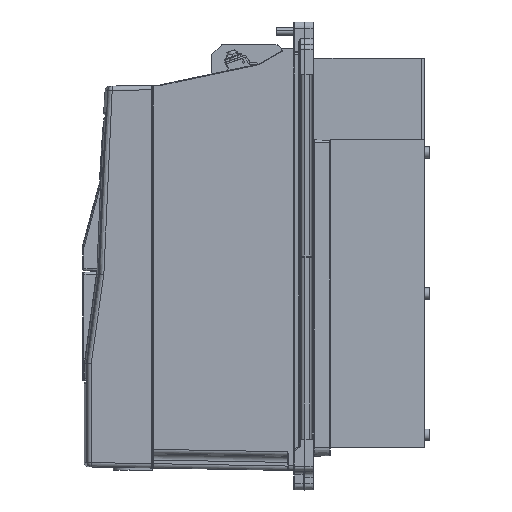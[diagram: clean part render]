
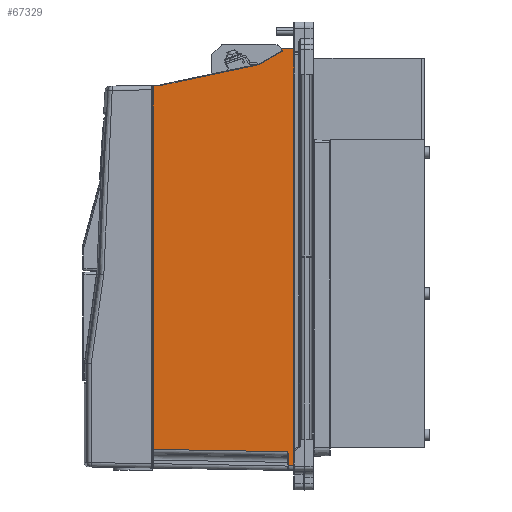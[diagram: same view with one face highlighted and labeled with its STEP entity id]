
A CAD part, left-side view. The second image highlights one B-rep face of the part: STEP entity #67329.
In plain terms, the highlighted planar face has unit normal (-1, 0.018, 0).
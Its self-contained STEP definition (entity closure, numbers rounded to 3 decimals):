
#221 = ORIENTED_EDGE ( 'NONE', *, *, #22526, .T. ) ;
#1192 = VECTOR ( 'NONE', #18104, 1000. ) ;
#1935 = CARTESIAN_POINT ( 'NONE',  ( -108.693, 64.434, -163.895 ) ) ;
#3152 = CARTESIAN_POINT ( 'NONE',  ( -110.747, -49.991, -165.929 ) ) ;
#3959 = VERTEX_POINT ( 'NONE', #43248 ) ;
#5430 = B_SPLINE_CURVE_WITH_KNOTS ( 'NONE', 3,
 ( #5744, #95565, #45939, #7277, #102388, #22946, #63699, #23954 ),
 .UNSPECIFIED., .F., .F.,
 ( 4, 2, 2, 4 ),
 ( 0., 0.001, 0.002, 0.003 ),
 .UNSPECIFIED. ) ;
#5744 = CARTESIAN_POINT ( 'NONE',  ( -110.73, -49.009, -154.992 ) ) ;
#6008 = VERTEX_POINT ( 'NONE', #19914 ) ;
#7223 = CARTESIAN_POINT ( 'NONE',  ( -108.887, 53.646, 136.585 ) ) ;
#7277 = CARTESIAN_POINT ( 'NONE',  ( -110.743, -49.76, -156.465 ) ) ;
#7624 = VERTEX_POINT ( 'NONE', #58889 ) ;
#8444 = ORIENTED_EDGE ( 'NONE', *, *, #49581, .T. ) ;
#8998 = DIRECTION ( 'NONE',  ( 0.018, 1., 0. ) ) ;
#10022 = FACE_OUTER_BOUND ( 'NONE', #53502, .T. ) ;
#10126 = VECTOR ( 'NONE', #39858, 1000. ) ;
#10980 = VERTEX_POINT ( 'NONE', #64912 ) ;
#11034 = CARTESIAN_POINT ( 'NONE',  ( -108.888, 53.582, 136.586 ) ) ;
#11076 = DIRECTION ( 'NONE',  ( 0.016, 0.866, -0.5 ) ) ;
#12215 = LINE ( 'NONE', #60808, #60762 ) ;
#14320 = VERTEX_POINT ( 'NONE', #19786 ) ;
#14661 = EDGE_CURVE ( 'NONE', #3959, #7624, #65163, .T. ) ;
#14730 = LINE ( 'NONE', #15253, #69872 ) ;
#15036 = ORIENTED_EDGE ( 'NONE', *, *, #101623, .T. ) ;
#15253 = CARTESIAN_POINT ( 'NONE',  ( -108.926, 51.493, 137.024 ) ) ;
#15471 = CARTESIAN_POINT ( 'NONE',  ( -110.33, -26.746, 153.671 ) ) ;
#18104 = DIRECTION ( 'NONE',  ( -0.018, -1., -0.018 ) ) ;
#18670 = EDGE_CURVE ( 'NONE', #34791, #6008, #87607, .T. ) ;
#19786 = CARTESIAN_POINT ( 'NONE',  ( -110.747, -49.991, -157.617 ) ) ;
#19914 = CARTESIAN_POINT ( 'NONE',  ( -108.809, 58.009, 136.509 ) ) ;
#21363 = LINE ( 'NONE', #89984, #23600 ) ;
#21973 = ORIENTED_EDGE ( 'NONE', *, *, #43638, .F. ) ;
#22234 = EDGE_CURVE ( 'NONE', #6008, #71752, #78559, .T. ) ;
#22458 = CARTESIAN_POINT ( 'NONE',  ( -110.649, -44.491, 163.917 ) ) ;
#22526 = EDGE_CURVE ( 'NONE', #41535, #72756, #58637, .T. ) ;
#22946 = CARTESIAN_POINT ( 'NONE',  ( -110.747, -49.956, -157.147 ) ) ;
#23600 = VECTOR ( 'NONE', #52693, 1000. ) ;
#23954 = CARTESIAN_POINT ( 'NONE',  ( -110.747, -49.991, -157.617 ) ) ;
#25433 = DIRECTION ( 'NONE',  ( 0., 0., -1. ) ) ;
#25679 = DIRECTION ( 'NONE',  ( 1., -0.018, 0. ) ) ;
#26701 = CARTESIAN_POINT ( 'NONE',  ( -108.887, 53.646, 136.585 ) ) ;
#28545 = EDGE_CURVE ( 'NONE', #3959, #10980, #12215, .T. ) ;
#28990 = CARTESIAN_POINT ( 'NONE',  ( -110.658, -44.991, 170. ) ) ;
#29777 = CARTESIAN_POINT ( 'NONE',  ( -110.654, -44.808, 164.1 ) ) ;
#29878 = DIRECTION ( 'NONE',  ( 0.018, 0.978, -0.208 ) ) ;
#30491 = VERTEX_POINT ( 'NONE', #3152 ) ;
#31174 = DIRECTION ( 'NONE',  ( 0.018, 1., -0.017 ) ) ;
#33170 = CARTESIAN_POINT ( 'NONE',  ( -110.73, -49.009, -154.992 ) ) ;
#34791 = VERTEX_POINT ( 'NONE', #7223 ) ;
#35634 = EDGE_CURVE ( 'NONE', #71752, #71630, #21363, .T. ) ;
#36110 =( BOUNDED_CURVE ( )  B_SPLINE_CURVE ( 3, ( #64557, #79718, #15471, #56211 ),
 .UNSPECIFIED., .F., .F. ) 
 B_SPLINE_CURVE_WITH_KNOTS ( ( 4, 4 ),
 ( 4.398, 4.712 ),
 .UNSPECIFIED. ) 
 CURVE ( )  GEOMETRIC_REPRESENTATION_ITEM ( )  RATIONAL_B_SPLINE_CURVE ( ( 1., 0.992, 0.992, 1. ) ) 
 REPRESENTATION_ITEM ( '' )  );
#37849 = VECTOR ( 'NONE', #31174, 1000. ) ;
#38674 = EDGE_CURVE ( 'NONE', #34791, #70285, #68787, .T. ) ;
#39356 = CARTESIAN_POINT ( 'NONE',  ( -108.809, 58.009, 170. ) ) ;
#39858 = DIRECTION ( 'NONE',  ( 0., 0., -1. ) ) ;
#41535 = VERTEX_POINT ( 'NONE', #72089 ) ;
#43248 = CARTESIAN_POINT ( 'NONE',  ( -110.819, -54., 166. ) ) ;
#43638 = EDGE_CURVE ( 'NONE', #77717, #72756, #36110, .T. ) ;
#44164 = LINE ( 'NONE', #28990, #63746 ) ;
#45939 = CARTESIAN_POINT ( 'NONE',  ( -110.738, -49.482, -155.814 ) ) ;
#47902 = ORIENTED_EDGE ( 'NONE', *, *, #94452, .F. ) ;
#49581 = EDGE_CURVE ( 'NONE', #14320, #30491, #80459, .T. ) ;
#49710 = CARTESIAN_POINT ( 'NONE',  ( -108.8, 58.5, 170. ) ) ;
#51226 = CARTESIAN_POINT ( 'NONE',  ( -108.889, 53.518, 136.593 ) ) ;
#51802 = VECTOR ( 'NONE', #11076, 1000. ) ;
#51962 = EDGE_CURVE ( 'NONE', #71630, #14320, #5430, .T. ) ;
#52693 = DIRECTION ( 'NONE',  ( -0.018, -1., -0.017 ) ) ;
#53035 = DIRECTION ( 'NONE',  ( 0., 0., -1. ) ) ;
#53502 = EDGE_LOOP ( 'NONE', ( #80628, #56406, #55418, #47902, #221, #21973, #15036, #67443, #95860, #58479, #87933, #85951, #8444, #82726 ) ) ;
#55418 = ORIENTED_EDGE ( 'NONE', *, *, #78398, .T. ) ;
#56211 = CARTESIAN_POINT ( 'NONE',  ( -110.332, -26.837, 153.723 ) ) ;
#56406 = ORIENTED_EDGE ( 'NONE', *, *, #28545, .T. ) ;
#58479 = ORIENTED_EDGE ( 'NONE', *, *, #22234, .T. ) ;
#58637 = LINE ( 'NONE', #82637, #51802 ) ;
#58699 = CARTESIAN_POINT ( 'NONE',  ( -110.326, -26.545, 153.611 ) ) ;
#58889 = CARTESIAN_POINT ( 'NONE',  ( -110.819, -54., -166.001 ) ) ;
#59621 = CARTESIAN_POINT ( 'NONE',  ( -108.891, 53.455, 136.607 ) ) ;
#60317 = CARTESIAN_POINT ( 'NONE',  ( -108.809, 58.009, -153.124 ) ) ;
#60762 = VECTOR ( 'NONE', #92673, 1000. ) ;
#60808 = CARTESIAN_POINT ( 'NONE',  ( -108.8, 58.5, 166. ) ) ;
#63699 = CARTESIAN_POINT ( 'NONE',  ( -110.747, -49.991, -157.379 ) ) ;
#63733 = CARTESIAN_POINT ( 'NONE',  ( -110.658, -44.991, 164.784 ) ) ;
#63746 = VECTOR ( 'NONE', #53035, 1000. ) ;
#64557 = CARTESIAN_POINT ( 'NONE',  ( -110.326, -26.545, 153.611 ) ) ;
#64912 = CARTESIAN_POINT ( 'NONE',  ( -110.658, -44.991, 166. ) ) ;
#65163 = LINE ( 'NONE', #97055, #94963 ) ;
#67329 = ADVANCED_FACE ( 'NONE', ( #10022 ), #97296, .F. ) ;
#67443 = ORIENTED_EDGE ( 'NONE', *, *, #38674, .F. ) ;
#68787 =( BOUNDED_CURVE ( )  B_SPLINE_CURVE ( 3, ( #26701, #11034, #51226, #59621 ),
 .UNSPECIFIED., .F., .F. ) 
 B_SPLINE_CURVE_WITH_KNOTS ( ( 4, 4 ),
 ( 1.588, 1.78 ),
 .UNSPECIFIED. ) 
 CURVE ( )  GEOMETRIC_REPRESENTATION_ITEM ( )  RATIONAL_B_SPLINE_CURVE ( ( 1., 0.997, 0.997, 1. ) ) 
 REPRESENTATION_ITEM ( '' )  );
#69292 = CARTESIAN_POINT ( 'NONE',  ( -110.658, -44.991, 164.784 ) ) ;
#69872 = VECTOR ( 'NONE', #29878, 1000. ) ;
#70285 = VERTEX_POINT ( 'NONE', #89472 ) ;
#71103 = DIRECTION ( 'NONE',  ( 0., 0., -1. ) ) ;
#71630 = VERTEX_POINT ( 'NONE', #33170 ) ;
#71752 = VERTEX_POINT ( 'NONE', #60317 ) ;
#72089 = CARTESIAN_POINT ( 'NONE',  ( -110.649, -44.491, 163.917 ) ) ;
#72756 = VERTEX_POINT ( 'NONE', #88586 ) ;
#72758 = VECTOR ( 'NONE', #71103, 1000. ) ;
#72761 = AXIS2_PLACEMENT_3D ( 'NONE', #49710, #25679, #8998 ) ;
#77717 = VERTEX_POINT ( 'NONE', #58699 ) ;
#78398 = EDGE_CURVE ( 'NONE', #10980, #92952, #44164, .T. ) ;
#78559 = LINE ( 'NONE', #39356, #10126 ) ;
#79718 = CARTESIAN_POINT ( 'NONE',  ( -110.328, -26.648, 153.633 ) ) ;
#80459 = LINE ( 'NONE', #95638, #72758 ) ;
#80628 = ORIENTED_EDGE ( 'NONE', *, *, #14661, .F. ) ;
#81326 = LINE ( 'NONE', #1935, #1192 ) ;
#82637 = CARTESIAN_POINT ( 'NONE',  ( -110.33, -26.763, 153.681 ) ) ;
#82726 = ORIENTED_EDGE ( 'NONE', *, *, #96775, .T. ) ;
#85691 = CARTESIAN_POINT ( 'NONE',  ( -110.658, -44.991, 164.418 ) ) ;
#85951 = ORIENTED_EDGE ( 'NONE', *, *, #51962, .T. ) ;
#87607 = LINE ( 'NONE', #102811, #37849 ) ;
#87933 = ORIENTED_EDGE ( 'NONE', *, *, #35634, .T. ) ;
#88586 = CARTESIAN_POINT ( 'NONE',  ( -110.332, -26.837, 153.723 ) ) ;
#88767 =( BOUNDED_CURVE ( )  B_SPLINE_CURVE ( 3, ( #22458, #29777, #85691, #63733 ),
 .UNSPECIFIED., .F., .F. ) 
 B_SPLINE_CURVE_WITH_KNOTS ( ( 4, 4 ),
 ( 4.712, 5.76 ),
 .UNSPECIFIED. ) 
 CURVE ( )  GEOMETRIC_REPRESENTATION_ITEM ( )  RATIONAL_B_SPLINE_CURVE ( ( 1., 0.911, 0.911, 1. ) ) 
 REPRESENTATION_ITEM ( '' )  );
#89472 = CARTESIAN_POINT ( 'NONE',  ( -108.891, 53.455, 136.607 ) ) ;
#89984 = CARTESIAN_POINT ( 'NONE',  ( -108.699, 64.136, -153.017 ) ) ;
#92673 = DIRECTION ( 'NONE',  ( 0.018, 1., 0. ) ) ;
#92952 = VERTEX_POINT ( 'NONE', #69292 ) ;
#94452 = EDGE_CURVE ( 'NONE', #41535, #92952, #88767, .T. ) ;
#94963 = VECTOR ( 'NONE', #25433, 1000. ) ;
#95565 = CARTESIAN_POINT ( 'NONE',  ( -110.734, -49.246, -155.402 ) ) ;
#95638 = CARTESIAN_POINT ( 'NONE',  ( -110.747, -49.991, -165.921 ) ) ;
#95860 = ORIENTED_EDGE ( 'NONE', *, *, #18670, .T. ) ;
#96775 = EDGE_CURVE ( 'NONE', #30491, #7624, #81326, .T. ) ;
#97055 = CARTESIAN_POINT ( 'NONE',  ( -110.819, -54., 170. ) ) ;
#97296 = PLANE ( 'NONE',  #72761 ) ;
#101623 = EDGE_CURVE ( 'NONE', #77717, #70285, #14730, .T. ) ;
#102388 = CARTESIAN_POINT ( 'NONE',  ( -110.745, -49.84, -156.69 ) ) ;
#102811 = CARTESIAN_POINT ( 'NONE',  ( -108.81, 57.916, 136.51 ) ) ;
